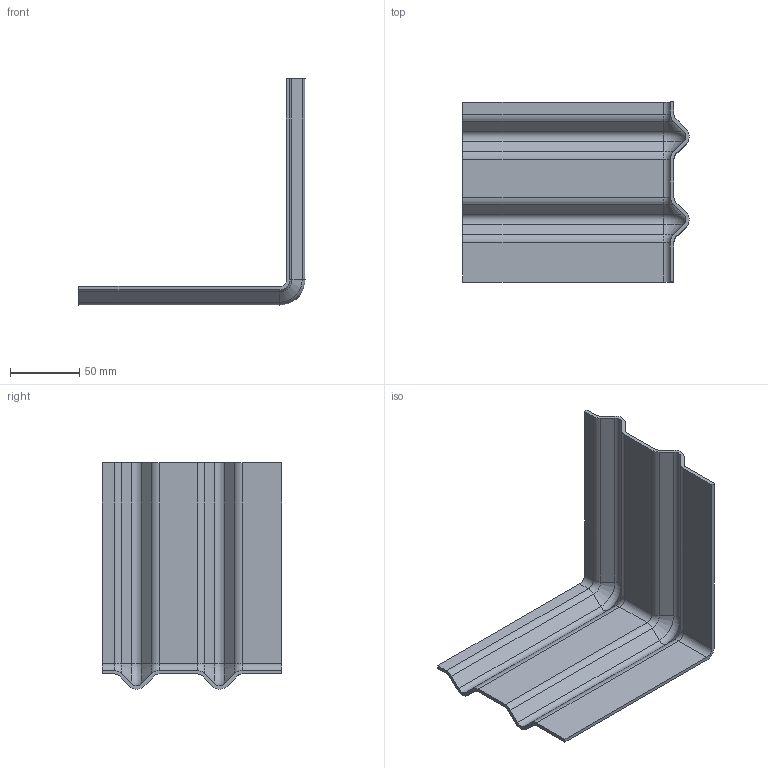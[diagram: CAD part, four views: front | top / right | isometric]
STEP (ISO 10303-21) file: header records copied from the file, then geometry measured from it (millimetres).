
FILE_DESCRIPTION((''),'2;1');
FILE_NAME('S:\Användarkataloger\AndreasA\Mina Inventor filer\Räcken\STEP\sparklist_ytterhörn.stp','2010-09-07T13:52:20',('AndreasA'),(''),'Autodesk Inventor 2011','Autodesk Inventor 2011','');
FILE_SCHEMA(('AUTOMOTIVE_DESIGN { 1 0 10303 214 1 1 1 1 }'));
Length unit declared in the file: millimetre
Products named in the file (1): sparklist_ytterhörn
Bounding box: 163.47 x 130 x 163.47 mm (x, y, z)
Volume: 111233.6 mm3; surface area: 91216.4 mm2
Topology: 1 solids, 1 shells, 82 faces, 192 edges, 112 vertices
Faces by surface type: plane 32, cylinder 30, torus 12, cone 8
Entity records: 2334 total; most frequent: DIRECTION 434, CARTESIAN_POINT 387, ORIENTED_EDGE 384, EDGE_CURVE 192, AXIS2_PLACEMENT_3D 159, VECTOR 116, LINE 116, VERTEX_POINT 112
